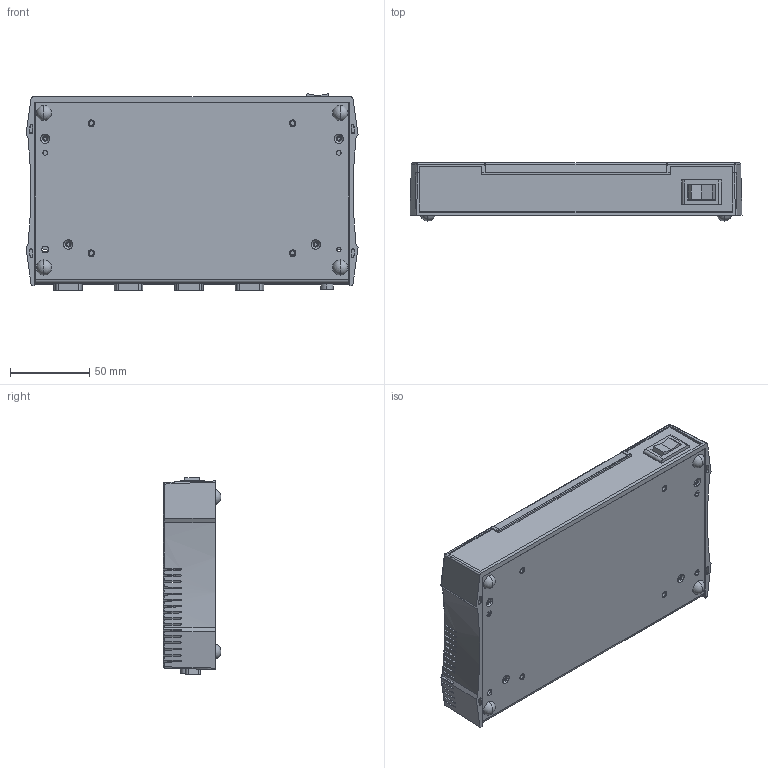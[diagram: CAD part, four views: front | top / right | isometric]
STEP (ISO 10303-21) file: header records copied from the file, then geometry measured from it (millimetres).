
FILE_DESCRIPTION((''),'2;1');
FILE_NAME('CU_ENET_4X_SERIAL','2007-07-16T',('chrisj'),(''),'PRO/ENGINEER BY PARAMETRIC TECHNOLOGY CORPORATION, 2006300','PRO/ENGINEER BY PARAMETRIC TECHNOLOGY CORPORATION, 2006300','');
FILE_SCHEMA(('AUTOMOTIVE_DESIGN_CC2 { 1 2 10303 214 -1 1 5 2 }'));
Products named in the file (1): CU_ENET_4X_SERIAL
Bounding box: 209.56 x 36.58 x 124.3 mm (x, y, z)
Volume: 161809 mm3; surface area: 162302.1 mm2
Topology: 9 solids, 9 shells, 1939 faces, 5443 edges, 3584 vertices
Faces by surface type: plane 1303, cylinder 447, cone 128, torus 43, sphere 12, bspline 6
Entity records: 68891 total; most frequent: CARTESIAN_POINT 18219, ORIENTED_EDGE 10870, DIRECTION 10034, EDGE_CURVE 5435, VECTOR 4012, LINE 4012, VERTEX_POINT 3584, AXIS2_PLACEMENT_3D 3011
